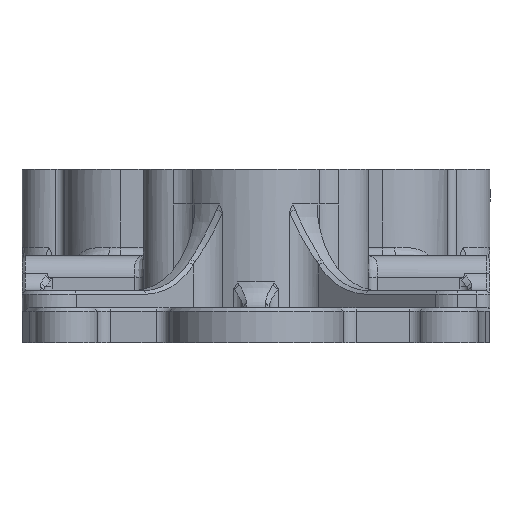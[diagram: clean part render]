
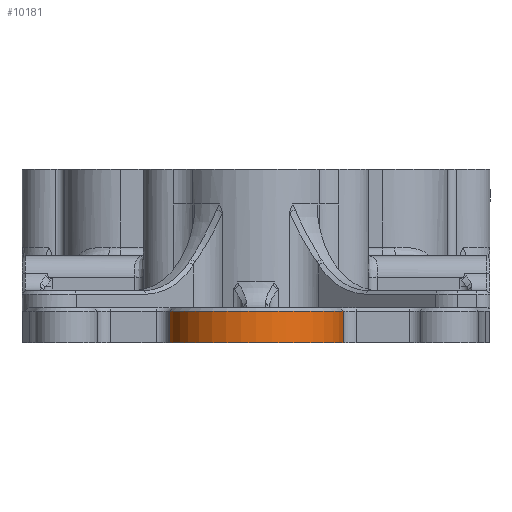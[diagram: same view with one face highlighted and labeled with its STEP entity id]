
A CAD part, left-side view. The second image highlights one B-rep face of the part: STEP entity #10181.
In plain terms, the highlighted cylindrical face has radius 10.2 mm (diameter 20.4 mm), a partial arc.
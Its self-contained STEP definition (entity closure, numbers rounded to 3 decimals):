
#217=CYLINDRICAL_SURFACE('',#11130,10.2);
#1014=LINE('',#21633,#1772);
#1015=LINE('',#21635,#1773);
#1772=VECTOR('',#13361,10.);
#1773=VECTOR('',#13364,10.);
#2483=FACE_OUTER_BOUND('',#3120,.T.);
#3120=EDGE_LOOP('',(#8450,#8451,#8452,#8453));
#3497=CIRCLE('',#10649,10.2);
#3743=CIRCLE('',#11112,10.2);
#4352=VERTEX_POINT('',#17293);
#4353=VERTEX_POINT('',#17295);
#4888=VERTEX_POINT('',#21592);
#4889=VERTEX_POINT('',#21596);
#5384=EDGE_CURVE('',#4353,#4352,#3497,.T.);
#6183=EDGE_CURVE('',#4888,#4889,#3743,.T.);
#6201=EDGE_CURVE('',#4889,#4352,#1014,.T.);
#6202=EDGE_CURVE('',#4353,#4888,#1015,.T.);
#8450=ORIENTED_EDGE('',*,*,#6183,.F.);
#8451=ORIENTED_EDGE('',*,*,#6202,.F.);
#8452=ORIENTED_EDGE('',*,*,#5384,.T.);
#8453=ORIENTED_EDGE('',*,*,#6201,.F.);
#10181=ADVANCED_FACE('',(#2483),#217,.T.);
#10649=AXIS2_PLACEMENT_3D('',#17296,#12021,#12022);
#11112=AXIS2_PLACEMENT_3D('',#21598,#13313,#13314);
#11130=AXIS2_PLACEMENT_3D('',#21634,#13362,#13363);
#12021=DIRECTION('center_axis',(0.,0.,1.));
#12022=DIRECTION('ref_axis',(-0.046,0.999,0.));
#13313=DIRECTION('center_axis',(0.,0.,1.));
#13314=DIRECTION('ref_axis',(-0.046,0.999,0.));
#13361=DIRECTION('',(0.,0.,-1.));
#13362=DIRECTION('center_axis',(0.,0.,1.));
#13363=DIRECTION('ref_axis',(-0.046,0.999,0.));
#13364=DIRECTION('',(0.,0.,1.));
#17293=CARTESIAN_POINT('',(-32.744,-10.073,8.));
#17295=CARTESIAN_POINT('',(-32.744,10.027,8.));
#17296=CARTESIAN_POINT('Origin',(-31.,-0.023,8.));
#21592=CARTESIAN_POINT('',(-32.744,10.027,11.6));
#21596=CARTESIAN_POINT('',(-32.744,-10.073,11.6));
#21598=CARTESIAN_POINT('Origin',(-31.,-0.023,11.6));
#21633=CARTESIAN_POINT('',(-32.744,-10.073,8.));
#21634=CARTESIAN_POINT('Origin',(-31.,-0.023,8.));
#21635=CARTESIAN_POINT('',(-32.744,10.027,8.));
